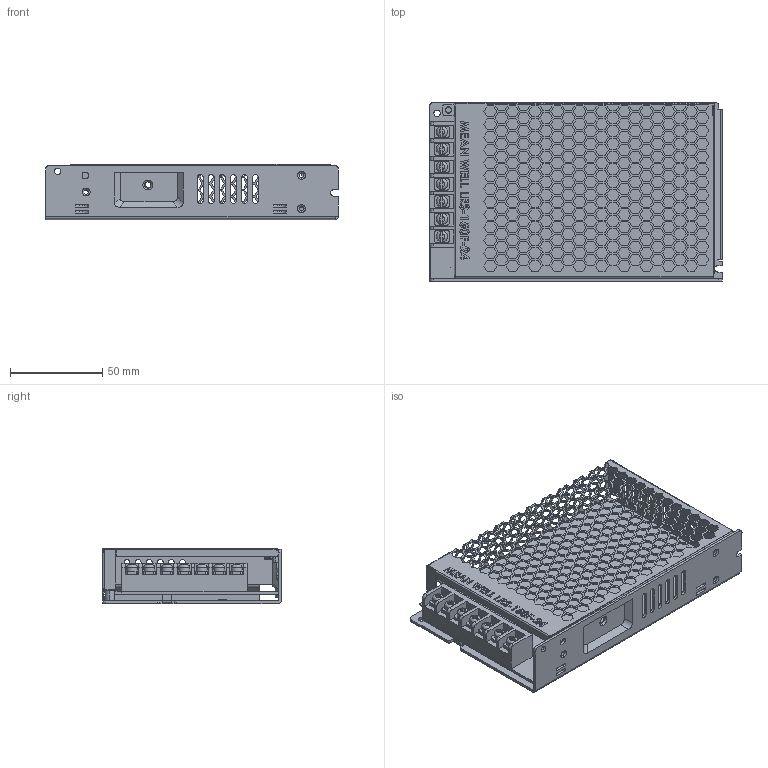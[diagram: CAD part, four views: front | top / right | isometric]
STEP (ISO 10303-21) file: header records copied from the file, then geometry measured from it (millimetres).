
FILE_DESCRIPTION (( 'STEP AP214' ), '1' );
FILE_NAME ('PWR-IO-24VDC.STEP', '2020-05-04T15:08:32', ( 'Tom Dombroski' ), ( '' ), 'SwSTEP 2.0', 'SolidWorks 2013', '' );
FILE_SCHEMA (( 'AUTOMOTIVE_DESIGN' ));
Length unit declared in the file: inch
Products named in the file (1): PWR-IO-24VDC
Bounding box: 159 x 97 x 30 mm (x, y, z)
Volume: 74495.7 mm3; surface area: 101196.7 mm2
Topology: 5 solids, 5 shells, 2993 faces, 8724 edges, 5720 vertices
Faces by surface type: plane 2629, cylinder 252, bspline 108, cone 4
Entity records: 140174 total; most frequent: CARTESIAN_POINT 23921, ORIENTED_EDGE 17448, DIRECTION 14777, EDGE_CURVE 8724, LINE 7945, VECTOR 7945, VERTEX_POINT 5720, EDGE_LOOP 3696
